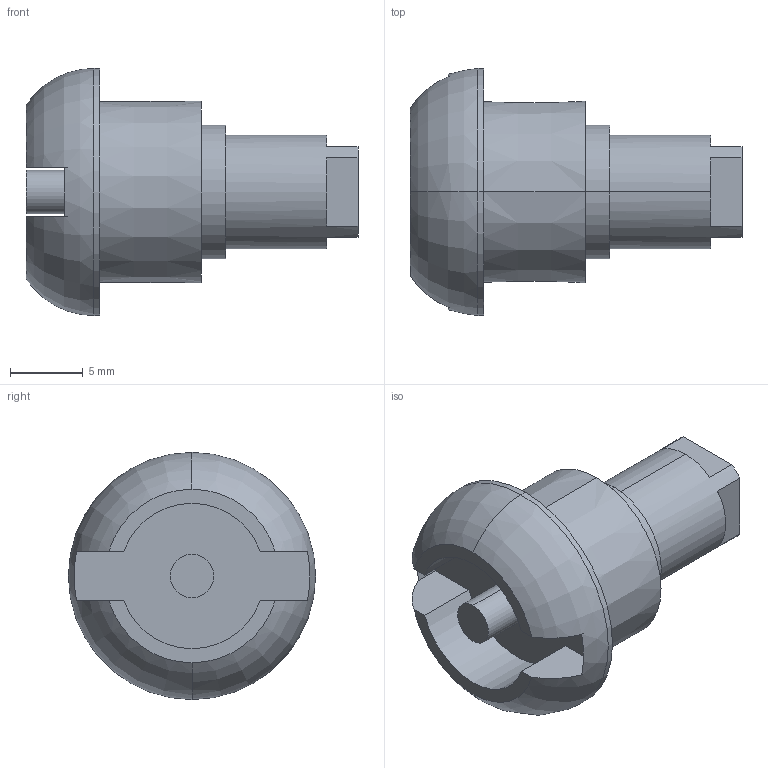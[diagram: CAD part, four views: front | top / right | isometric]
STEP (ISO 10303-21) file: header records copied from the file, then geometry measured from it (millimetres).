
FILE_DESCRIPTION (( 'STEP AP203' ), '1' );
FILE_NAME ('llkdbm3.STEP', '2017-11-16T19:36:05', ( '' ), ( '' ), 'SwSTEP 2.0', 'SolidWorks 2014', '' );
FILE_SCHEMA (( 'CONFIG_CONTROL_DESIGN' ));
Length unit declared in the file: inch
Products named in the file (2): 46241001; llkdbm3
Assembly tree (1 placements, depth 2):
  llkdbm3
    46241001
Bounding box: 22.86 x 17.02 x 17.02 mm (x, y, z)
Volume: 1727.9 mm3; surface area: 1566.8 mm2
Topology: 1 solids, 1 shells, 40 faces, 97 edges, 64 vertices
Faces by surface type: plane 21, cylinder 15, torus 2, cone 2
Entity records: 1433 total; most frequent: CARTESIAN_POINT 253, DIRECTION 229, ORIENTED_EDGE 194, EDGE_CURVE 97, AXIS2_PLACEMENT_3D 92, VERTEX_POINT 64, CIRCLE 48, EDGE_LOOP 45
